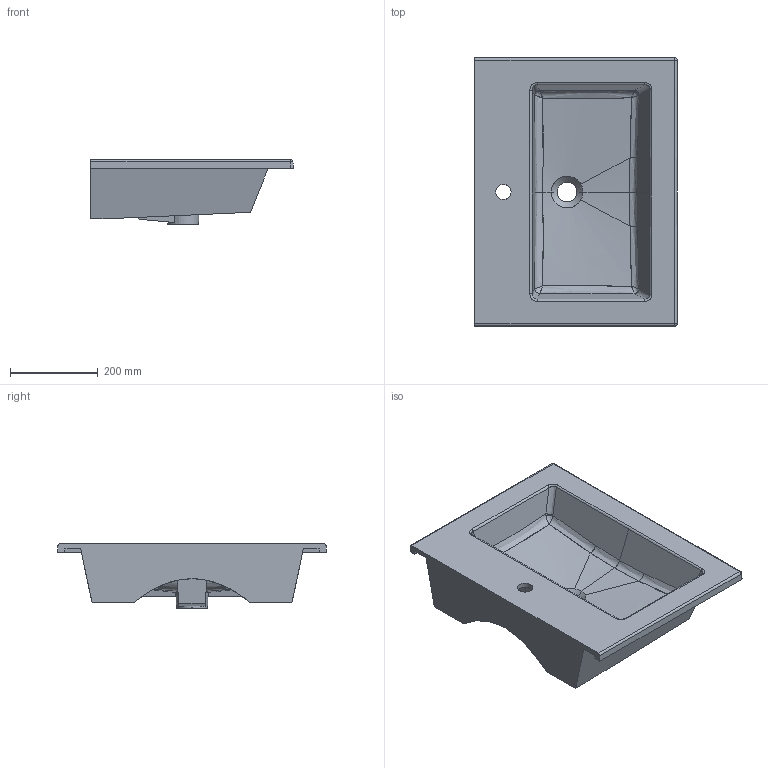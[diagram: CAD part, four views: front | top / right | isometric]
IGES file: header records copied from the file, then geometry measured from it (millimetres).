
Start section: START RECORD GO HERE.
Global section: file name: LAVABO 61 X46.igs; native system: DASSAULT SYSTEMES CATIA V5 R19 - www.3ds.com; preprocessor: CATIA Version 5 Release 19 SP 5 ; author: Luca; organization: DESKTOP-V7SON24; date: 20200124.162034; units: millimetre
Bounding box: 460.7 x 611.4 x 147.5 mm (x, y, z)
Surface area: 966204.5 mm2 (no closed solid volume)
Topology: 0 solids, 0 shells, 100 faces, 518 edges, 512 vertices
Faces by surface type: bspline 58, revolution 27, plane 13, extrusion 2
